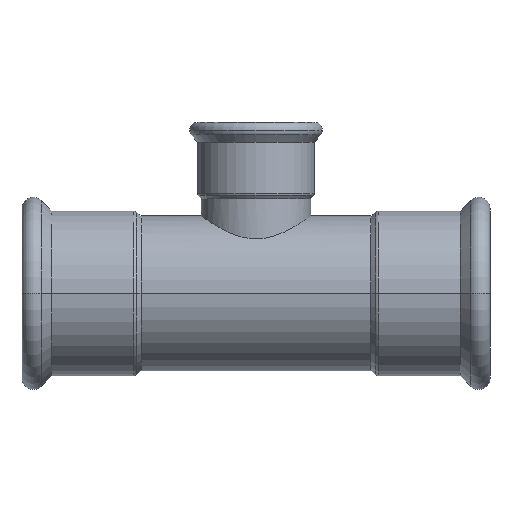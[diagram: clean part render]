
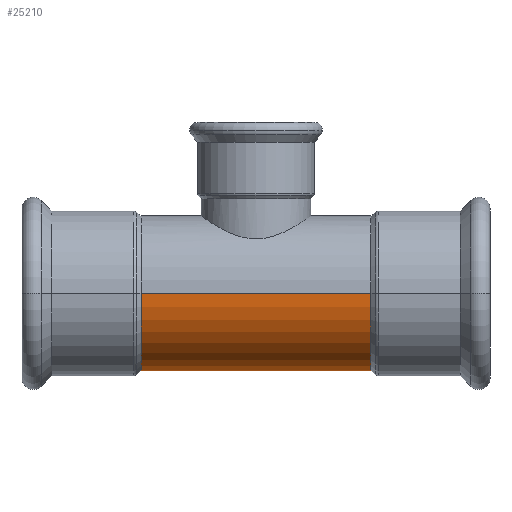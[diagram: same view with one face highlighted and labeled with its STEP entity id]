
A CAD part, front view. The second image highlights one B-rep face of the part: STEP entity #25210.
In plain terms, the highlighted cylindrical face has radius 38.05 mm (diameter 76.1 mm), a partial arc.
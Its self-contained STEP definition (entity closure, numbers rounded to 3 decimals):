
#4180=CARTESIAN_POINT('',(-26.156,147.195,0.));
#4190=DIRECTION('',(-1.,0.,0.));
#4200=DIRECTION('',(0.,0.,-1.));
#4210=AXIS2_PLACEMENT_3D('',#4180,#4190,#4200);
#4220=CYLINDRICAL_SURFACE('',#4210,38.05);
#13210=CARTESIAN_POINT('',(-26.156,147.195,38.05));
#13220=DIRECTION('',(-1.,0.,0.));
#13230=VECTOR('',#13220,1.);
#13240=LINE('',#13210,#13230);
#13250=CARTESIAN_POINT('',(86.844,147.195,38.05));
#13260=VERTEX_POINT('',#13250);
#13270=CARTESIAN_POINT('',(-26.156,147.195,38.05));
#13280=VERTEX_POINT('',#13270);
#13290=EDGE_CURVE('',#13260,#13280,#13240,.T.);
#13310=CARTESIAN_POINT('',(-26.156,147.195,0.));
#13320=DIRECTION('',(-1.,0.,0.));
#13330=DIRECTION('',(0.,0.,-1.));
#13340=AXIS2_PLACEMENT_3D('',#13310,#13320,#13330);
#13350=CIRCLE('',#13340,38.05);
#13360=CARTESIAN_POINT('',(-26.156,147.195,-38.05));
#13370=VERTEX_POINT('',#13360);
#13400=CARTESIAN_POINT('',(-26.156,147.195,-38.05));
#13410=DIRECTION('',(-1.,0.,0.));
#13420=VECTOR('',#13410,1.);
#13430=LINE('',#13400,#13420);
#13440=CARTESIAN_POINT('',(86.844,147.195,-38.05));
#13450=VERTEX_POINT('',#13440);
#13460=EDGE_CURVE('',#13450,#13370,#13430,.T.);
#13480=CARTESIAN_POINT('',(86.844,147.195,0.));
#13490=DIRECTION('',(-1.,0.,0.));
#13500=DIRECTION('',(0.,0.,-1.));
#13510=AXIS2_PLACEMENT_3D('',#13480,#13490,#13500);
#13520=CIRCLE('',#13510,38.05);
#24620=EDGE_CURVE('',#13450,#13260,#13520,.T.);
#25140=EDGE_CURVE('',#13370,#13280,#13350,.T.);
#25150=ORIENTED_EDGE('',*,*,#25140,.F.);
#25160=ORIENTED_EDGE('',*,*,#13290,.T.);
#25170=ORIENTED_EDGE('',*,*,#24620,.T.);
#25180=ORIENTED_EDGE('',*,*,#13460,.F.);
#25190=EDGE_LOOP('',(#25180,#25170,#25160,#25150));
#25200=FACE_OUTER_BOUND('',#25190,.T.);
#25210=ADVANCED_FACE('',(#25200),#4220,.T.);
